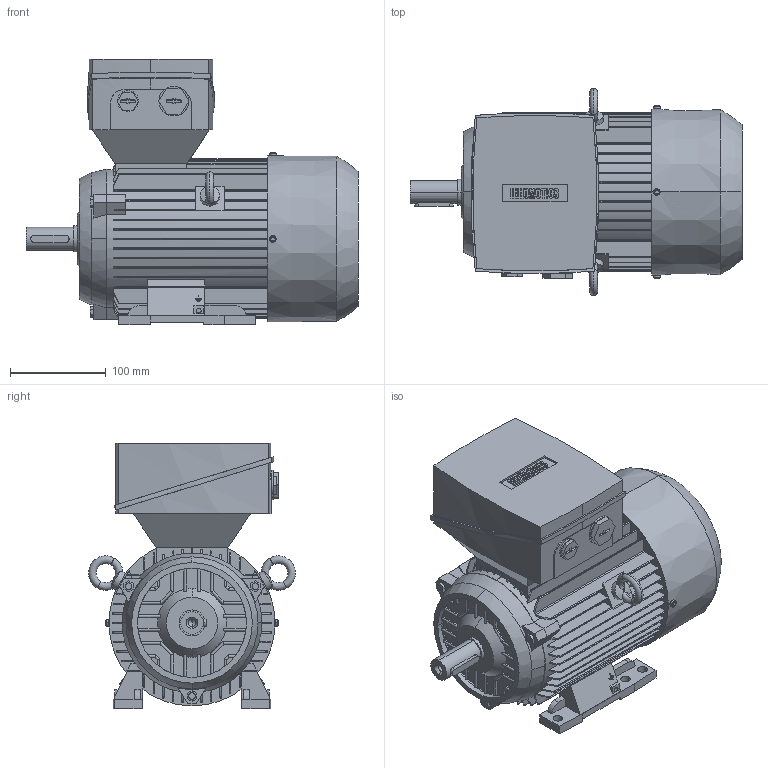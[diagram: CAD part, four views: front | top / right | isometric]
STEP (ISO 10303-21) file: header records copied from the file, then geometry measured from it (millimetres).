
FILE_DESCRIPTION(('STEP AP214'),'1');
FILE_NAME('cctmp_44B11C42-9E1A-4E35-810A-D302398B55D0_2026_04_15_11_57_34_0522_34252..stp','2026-04-15T09:57:35',('KiM GmbH'),('CADClick - www.CADClick.com'),'Spatial InterOp 3D',' ','unknown authorization');
FILE_SCHEMA(('AUTOMOTIVE_DESIGN'));
Length unit declared in the file: millimetre
Products named in the file (1): 2026_04_15_11_57_34_0520
Bounding box: 347 x 216.39 x 278 mm (x, y, z)
Volume: 7586267.9 mm3; surface area: 479515.3 mm2
Topology: 5 solids, 5 shells, 1032 faces, 2930 edges, 1912 vertices
Faces by surface type: plane 647, cylinder 247, torus 110, cone 24, sphere 4
Entity records: 44353 total; most frequent: CARTESIAN_POINT 9281, ORIENTED_EDGE 5796, DIRECTION 5430, EDGE_CURVE 2896, VERTEX_POINT 1912, AXIS2_PLACEMENT_3D 1840, LINE 1750, VECTOR 1750
